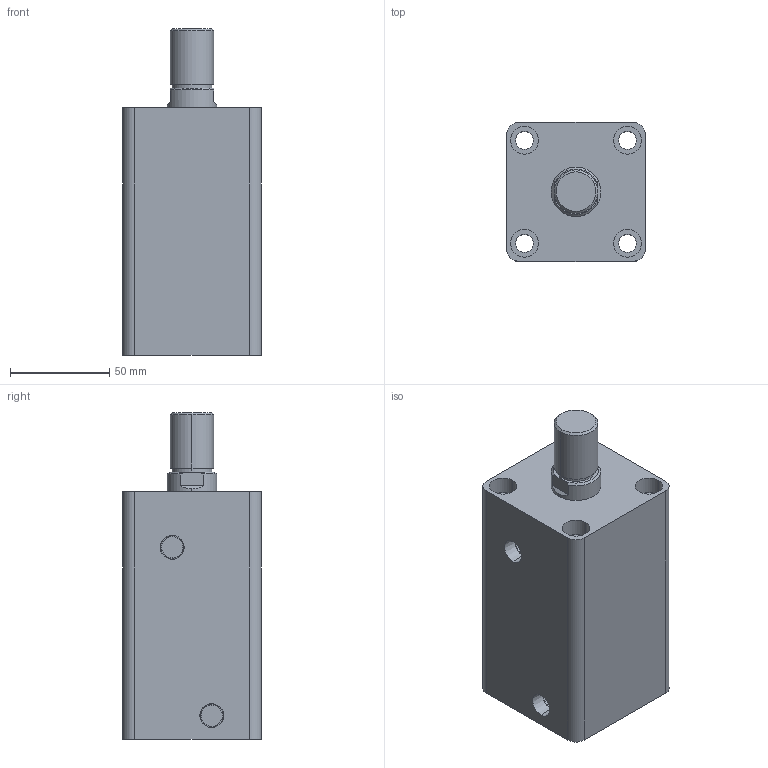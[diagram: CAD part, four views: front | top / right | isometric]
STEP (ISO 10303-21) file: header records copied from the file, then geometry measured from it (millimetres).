
FILE_DESCRIPTION (( 'STEP AP203' ), '1' );
FILE_NAME ('HTB-SD40-70W.STEP', '2019-10-07T06:55:11', ( '微软用户' ), ( '微软中国' ), 'SwSTEP 2.0', 'SolidWorks 2012', '' );
FILE_SCHEMA (( 'CONFIG_CONTROL_DESIGN' ));
Length unit declared in the file: millimetre
Products named in the file (3): HTB-SD40-70掛极; HTB-SD40-70W活塞杆; HTB-SD40-70W
Assembly tree (2 placements, depth 2):
  HTB-SD40-70W
    HTB-SD40-70掛极
    HTB-SD40-70W活塞杆
Bounding box: 70 x 70 x 165 mm (x, y, z)
Volume: 530704.4 mm3; surface area: 88817.9 mm2
Topology: 2 solids, 2 shells, 85 faces, 186 edges, 122 vertices
Faces by surface type: cylinder 44, plane 29, cone 8, torus 4
Entity records: 2709 total; most frequent: DIRECTION 466, CARTESIAN_POINT 426, ORIENTED_EDGE 372, AXIS2_PLACEMENT_3D 198, EDGE_CURVE 186, VERTEX_POINT 122, EDGE_LOOP 110, CIRCLE 108
